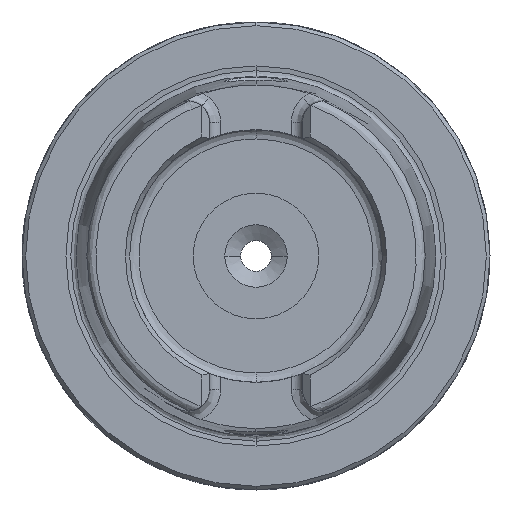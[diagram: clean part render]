
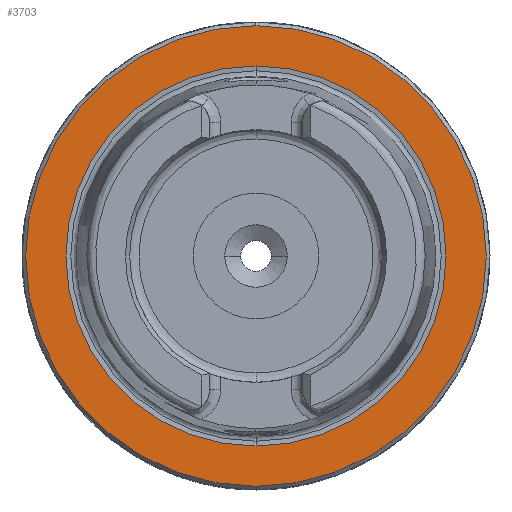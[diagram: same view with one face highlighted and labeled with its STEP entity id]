
A CAD part, left-side view. The second image highlights one B-rep face of the part: STEP entity #3703.
In plain terms, the highlighted planar face has unit normal (-1, 0, 0).
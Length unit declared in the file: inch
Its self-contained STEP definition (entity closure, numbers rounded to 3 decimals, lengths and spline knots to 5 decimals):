
#64 = EDGE_LOOP ( 'NONE', ( #1316, #7329 ) ) ;
#83 = DIRECTION ( 'NONE',  ( 0., 0., 1. ) ) ;
#246 = CARTESIAN_POINT ( 'NONE',  ( 0., 0., -1.22047 ) ) ;
#369 = CARTESIAN_POINT ( 'NONE',  ( 0., 0., 1.22047 ) ) ;
#415 = DIRECTION ( 'NONE',  ( -1., 0., 0. ) ) ;
#456 = DIRECTION ( 'NONE',  ( 0., 0., 1. ) ) ;
#590 = ORIENTED_EDGE ( 'NONE', *, *, #947, .F. ) ;
#641 = VERTEX_POINT ( 'NONE', #246 ) ;
#720 = CIRCLE ( 'NONE', #7698, 1.0074 ) ;
#947 = EDGE_CURVE ( 'NONE', #641, #2329, #2606, .T. ) ;
#997 = DIRECTION ( 'NONE',  ( 0., 0., -1. ) ) ;
#1103 = CIRCLE ( 'NONE', #4182, 1.22047 ) ;
#1121 = FACE_OUTER_BOUND ( 'NONE', #3038, .T. ) ;
#1262 = DIRECTION ( 'NONE',  ( 1., 0., 0. ) ) ;
#1316 = ORIENTED_EDGE ( 'NONE', *, *, #6889, .T. ) ;
#1354 = CARTESIAN_POINT ( 'NONE',  ( 0., 0., 0. ) ) ;
#1428 = AXIS2_PLACEMENT_3D ( 'NONE', #1354, #6446, #83 ) ;
#2265 = EDGE_CURVE ( 'NONE', #2329, #641, #1103, .T. ) ;
#2329 = VERTEX_POINT ( 'NONE', #369 ) ;
#2357 = AXIS2_PLACEMENT_3D ( 'NONE', #2897, #415, #456 ) ;
#2606 = CIRCLE ( 'NONE', #7302, 1.22047 ) ;
#2897 = CARTESIAN_POINT ( 'NONE',  ( 0., 1.22047, 0. ) ) ;
#3038 = EDGE_LOOP ( 'NONE', ( #590, #4428 ) ) ;
#3703 = ADVANCED_FACE ( 'NONE', ( #7510, #1121 ), #4188, .T. ) ;
#3726 = CARTESIAN_POINT ( 'NONE',  ( 0., 0., 0. ) ) ;
#3892 = CARTESIAN_POINT ( 'NONE',  ( 0., 0., 1.0074 ) ) ;
#4182 = AXIS2_PLACEMENT_3D ( 'NONE', #8100, #4909, #997 ) ;
#4188 = PLANE ( 'NONE',  #2357 ) ;
#4428 = ORIENTED_EDGE ( 'NONE', *, *, #2265, .F. ) ;
#4909 = DIRECTION ( 'NONE',  ( 1., 0., 0. ) ) ;
#4960 = DIRECTION ( 'NONE',  ( 1., 0., 0. ) ) ;
#5044 = CARTESIAN_POINT ( 'NONE',  ( 0., 0., -1.0074 ) ) ;
#5127 = DIRECTION ( 'NONE',  ( 0., 0., 1. ) ) ;
#5564 = EDGE_CURVE ( 'NONE', #7205, #7788, #720, .T. ) ;
#5714 = CIRCLE ( 'NONE', #1428, 1.0074 ) ;
#6446 = DIRECTION ( 'NONE',  ( 1., 0., 0. ) ) ;
#6889 = EDGE_CURVE ( 'NONE', #7788, #7205, #5714, .T. ) ;
#6959 = CARTESIAN_POINT ( 'NONE',  ( 0., 0., 0. ) ) ;
#7205 = VERTEX_POINT ( 'NONE', #5044 ) ;
#7302 = AXIS2_PLACEMENT_3D ( 'NONE', #6959, #4960, #8190 ) ;
#7329 = ORIENTED_EDGE ( 'NONE', *, *, #5564, .T. ) ;
#7510 = FACE_BOUND ( 'NONE', #64, .T. ) ;
#7698 = AXIS2_PLACEMENT_3D ( 'NONE', #3726, #1262, #5127 ) ;
#7788 = VERTEX_POINT ( 'NONE', #3892 ) ;
#8100 = CARTESIAN_POINT ( 'NONE',  ( 0., 0., 0. ) ) ;
#8190 = DIRECTION ( 'NONE',  ( 0., 0., -1. ) ) ;
